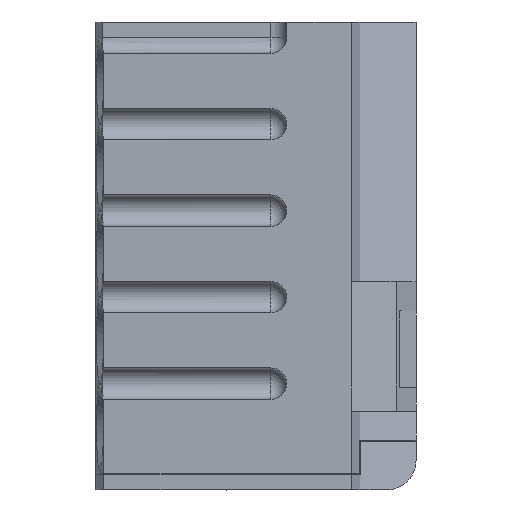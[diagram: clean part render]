
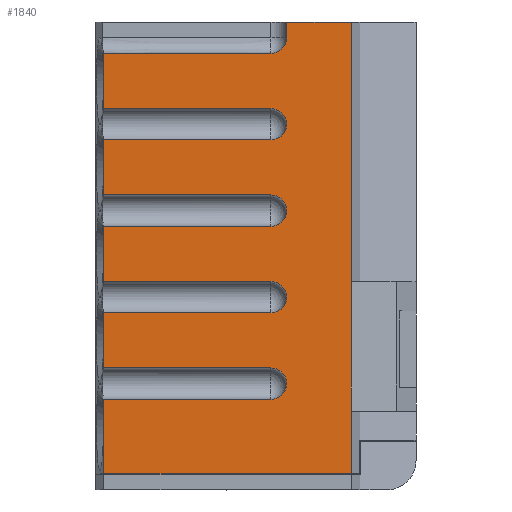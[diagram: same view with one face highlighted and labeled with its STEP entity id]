
A CAD part, top view. The second image highlights one B-rep face of the part: STEP entity #1840.
In plain terms, the highlighted planar face has unit normal (0, 0, 1).
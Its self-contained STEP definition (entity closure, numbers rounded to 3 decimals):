
#23=B_SPLINE_CURVE_WITH_KNOTS('',3,(#2732,#2733,#2734,#2735),
 .UNSPECIFIED.,.F.,.F.,(4,4),(0.,0.009),.UNSPECIFIED.);
#127=LINE('',#2630,#243);
#129=LINE('',#2634,#245);
#130=LINE('',#2636,#246);
#131=LINE('',#2638,#247);
#132=LINE('',#2640,#248);
#133=LINE('',#2679,#249);
#134=LINE('',#2683,#250);
#135=LINE('',#2685,#251);
#136=LINE('',#2689,#252);
#137=LINE('',#2691,#253);
#138=LINE('',#2695,#254);
#144=LINE('',#2706,#260);
#146=LINE('',#2737,#262);
#147=LINE('',#2741,#263);
#148=LINE('',#2743,#264);
#149=LINE('',#2744,#265);
#150=LINE('',#2745,#266);
#151=LINE('',#2746,#267);
#152=LINE('',#2747,#268);
#243=VECTOR('',#2254,1000.);
#245=VECTOR('',#2258,1000.);
#246=VECTOR('',#2261,1000.);
#247=VECTOR('',#2264,1000.);
#248=VECTOR('',#2267,1000.);
#249=VECTOR('',#2318,1000.);
#250=VECTOR('',#2321,1000.);
#251=VECTOR('',#2324,1000.);
#252=VECTOR('',#2327,1000.);
#253=VECTOR('',#2330,1000.);
#254=VECTOR('',#2333,1000.);
#260=VECTOR('',#2345,1000.);
#262=VECTOR('',#2351,1000.);
#263=VECTOR('',#2354,1000.);
#264=VECTOR('',#2357,1000.);
#265=VECTOR('',#2358,1000.);
#266=VECTOR('',#2359,1000.);
#267=VECTOR('',#2360,1000.);
#268=VECTOR('',#2361,1000.);
#327=PLANE('',#1978);
#628=ORIENTED_EDGE('',*,*,#842,.F.);
#629=ORIENTED_EDGE('',*,*,#814,.F.);
#630=ORIENTED_EDGE('',*,*,#844,.F.);
#631=ORIENTED_EDGE('',*,*,#845,.T.);
#632=ORIENTED_EDGE('',*,*,#823,.F.);
#633=ORIENTED_EDGE('',*,*,#812,.F.);
#634=ORIENTED_EDGE('',*,*,#825,.F.);
#635=ORIENTED_EDGE('',*,*,#846,.T.);
#636=ORIENTED_EDGE('',*,*,#826,.F.);
#637=ORIENTED_EDGE('',*,*,#810,.F.);
#638=ORIENTED_EDGE('',*,*,#828,.F.);
#639=ORIENTED_EDGE('',*,*,#847,.T.);
#640=ORIENTED_EDGE('',*,*,#829,.F.);
#641=ORIENTED_EDGE('',*,*,#808,.T.);
#642=ORIENTED_EDGE('',*,*,#831,.F.);
#643=ORIENTED_EDGE('',*,*,#848,.T.);
#644=ORIENTED_EDGE('',*,*,#806,.F.);
#645=ORIENTED_EDGE('',*,*,#805,.T.);
#646=ORIENTED_EDGE('',*,*,#804,.T.);
#647=ORIENTED_EDGE('',*,*,#803,.T.);
#648=ORIENTED_EDGE('',*,*,#837,.F.);
#649=ORIENTED_EDGE('',*,*,#801,.F.);
#650=ORIENTED_EDGE('',*,*,#798,.T.);
#651=ORIENTED_EDGE('',*,*,#841,.F.);
#652=ORIENTED_EDGE('',*,*,#849,.T.);
#798=EDGE_CURVE('',#927,#929,#976,.T.);
#801=EDGE_CURVE('',#927,#931,#127,.T.);
#803=EDGE_CURVE('',#906,#932,#129,.T.);
#804=EDGE_CURVE('',#907,#906,#130,.T.);
#805=EDGE_CURVE('',#912,#907,#131,.T.);
#806=EDGE_CURVE('',#912,#933,#132,.F.);
#808=EDGE_CURVE('',#934,#935,#978,.T.);
#810=EDGE_CURVE('',#936,#937,#980,.F.);
#812=EDGE_CURVE('',#938,#939,#982,.F.);
#814=EDGE_CURVE('',#940,#941,#984,.F.);
#823=EDGE_CURVE('',#939,#946,#133,.T.);
#825=EDGE_CURVE('',#947,#938,#134,.F.);
#826=EDGE_CURVE('',#937,#948,#135,.T.);
#828=EDGE_CURVE('',#949,#936,#136,.F.);
#829=EDGE_CURVE('',#934,#950,#137,.T.);
#831=EDGE_CURVE('',#951,#935,#138,.F.);
#837=EDGE_CURVE('',#931,#932,#144,.T.);
#841=EDGE_CURVE('',#955,#929,#23,.T.);
#842=EDGE_CURVE('',#941,#956,#146,.T.);
#844=EDGE_CURVE('',#957,#940,#147,.F.);
#845=EDGE_CURVE('',#957,#946,#148,.T.);
#846=EDGE_CURVE('',#947,#948,#149,.T.);
#847=EDGE_CURVE('',#949,#950,#150,.T.);
#848=EDGE_CURVE('',#951,#933,#151,.T.);
#849=EDGE_CURVE('',#955,#956,#152,.T.);
#906=VERTEX_POINT('',#2541);
#907=VERTEX_POINT('',#2545);
#912=VERTEX_POINT('',#2564);
#927=VERTEX_POINT('',#2620);
#929=VERTEX_POINT('',#2623);
#931=VERTEX_POINT('',#2628);
#932=VERTEX_POINT('',#2633);
#933=VERTEX_POINT('',#2641);
#934=VERTEX_POINT('',#2645);
#935=VERTEX_POINT('',#2646);
#936=VERTEX_POINT('',#2650);
#937=VERTEX_POINT('',#2651);
#938=VERTEX_POINT('',#2655);
#939=VERTEX_POINT('',#2656);
#940=VERTEX_POINT('',#2660);
#941=VERTEX_POINT('',#2661);
#946=VERTEX_POINT('',#2680);
#947=VERTEX_POINT('',#2682);
#948=VERTEX_POINT('',#2686);
#949=VERTEX_POINT('',#2688);
#950=VERTEX_POINT('',#2692);
#951=VERTEX_POINT('',#2694);
#955=VERTEX_POINT('',#2731);
#956=VERTEX_POINT('',#2738);
#957=VERTEX_POINT('',#2740);
#976=CIRCLE('',#1935,0.8);
#978=CIRCLE('',#1944,0.8);
#980=CIRCLE('',#1947,0.8);
#982=CIRCLE('',#1950,0.8);
#984=CIRCLE('',#1953,0.8);
#1080=EDGE_LOOP('',(#628,#629,#630,#631,#632,#633,#634,#635,#636,#637,#638,
#639,#640,#641,#642,#643,#644,#645,#646,#647,#648,#649,#650,#651,#652));
#1171=FACE_BOUND('',#1080,.T.);
#1840=ADVANCED_FACE('',(#1171),#327,.F.);
#1935=AXIS2_PLACEMENT_3D('',#2624,#2247,#2248);
#1944=AXIS2_PLACEMENT_3D('',#2644,#2272,#2273);
#1947=AXIS2_PLACEMENT_3D('',#2649,#2278,#2279);
#1950=AXIS2_PLACEMENT_3D('',#2654,#2284,#2285);
#1953=AXIS2_PLACEMENT_3D('',#2659,#2290,#2291);
#1978=AXIS2_PLACEMENT_3D('',#2742,#2355,#2356);
#2247=DIRECTION('',(0.,0.,-1.));
#2248=DIRECTION('',(-1.,0.,0.));
#2254=DIRECTION('',(0.,1.,0.));
#2258=DIRECTION('',(0.,1.,0.));
#2261=DIRECTION('',(0.,1.,0.));
#2264=DIRECTION('',(0.,1.,0.));
#2267=DIRECTION('',(1.,0.,0.));
#2272=DIRECTION('',(0.,0.,-1.));
#2273=DIRECTION('',(-1.,0.,0.));
#2278=DIRECTION('',(0.,0.,-1.));
#2279=DIRECTION('',(-1.,0.,0.));
#2284=DIRECTION('',(0.,0.,-1.));
#2285=DIRECTION('',(-1.,0.,0.));
#2290=DIRECTION('',(0.,0.,-1.));
#2291=DIRECTION('',(-1.,0.,0.));
#2318=DIRECTION('',(-1.,0.,0.));
#2321=DIRECTION('',(-1.,0.,0.));
#2324=DIRECTION('',(-1.,0.,0.));
#2327=DIRECTION('',(-1.,0.,0.));
#2330=DIRECTION('',(-1.,0.,0.));
#2333=DIRECTION('',(-1.,0.,0.));
#2345=DIRECTION('',(1.,0.,0.));
#2351=DIRECTION('',(-1.,0.,0.));
#2354=DIRECTION('',(-1.,0.,0.));
#2355=DIRECTION('',(0.,0.,-1.));
#2356=DIRECTION('',(-1.,0.,0.));
#2357=DIRECTION('',(0.,-1.,0.));
#2358=DIRECTION('',(0.,-1.,0.));
#2359=DIRECTION('',(0.,-1.,0.));
#2360=DIRECTION('',(0.,-1.,0.));
#2361=DIRECTION('',(0.,-1.,0.));
#2541=CARTESIAN_POINT('',(4.9,10.6,3.75));
#2545=CARTESIAN_POINT('',(4.9,4.,3.75));
#2564=CARTESIAN_POINT('',(4.9,0.825,3.75));
#2620=CARTESIAN_POINT('',(1.6,23.,3.75));
#2623=CARTESIAN_POINT('',(0.8,22.2,3.75));
#2624=CARTESIAN_POINT('',(0.8,23.,3.75));
#2628=CARTESIAN_POINT('',(1.6,23.8,3.75));
#2630=CARTESIAN_POINT('',(1.6,10.6,3.75));
#2633=CARTESIAN_POINT('',(4.9,23.8,3.75));
#2634=CARTESIAN_POINT('',(4.9,11.826,3.75));
#2636=CARTESIAN_POINT('',(4.9,10.6,3.75));
#2638=CARTESIAN_POINT('',(4.9,10.6,3.75));
#2640=CARTESIAN_POINT('',(-7.7,0.825,3.75));
#2641=CARTESIAN_POINT('',(-7.7,0.825,3.75));
#2644=CARTESIAN_POINT('',(0.8,5.4,3.75));
#2645=CARTESIAN_POINT('',(0.8,6.2,3.75));
#2646=CARTESIAN_POINT('',(0.8,4.6,3.75));
#2649=CARTESIAN_POINT('',(0.8,9.8,3.75));
#2650=CARTESIAN_POINT('',(0.8,9.,3.75));
#2651=CARTESIAN_POINT('',(0.8,10.6,3.75));
#2654=CARTESIAN_POINT('',(0.8,14.2,3.75));
#2655=CARTESIAN_POINT('',(0.8,13.4,3.75));
#2656=CARTESIAN_POINT('',(0.8,15.,3.75));
#2659=CARTESIAN_POINT('',(0.8,18.6,3.75));
#2660=CARTESIAN_POINT('',(0.8,17.8,3.75));
#2661=CARTESIAN_POINT('',(0.8,19.4,3.75));
#2679=CARTESIAN_POINT('',(0.8,15.,3.75));
#2680=CARTESIAN_POINT('',(-7.7,15.,3.75));
#2682=CARTESIAN_POINT('',(-7.7,13.4,3.75));
#2683=CARTESIAN_POINT('',(0.8,13.4,3.75));
#2685=CARTESIAN_POINT('',(0.8,10.6,3.75));
#2686=CARTESIAN_POINT('',(-7.7,10.6,3.75));
#2688=CARTESIAN_POINT('',(-7.7,9.,3.75));
#2689=CARTESIAN_POINT('',(0.8,9.,3.75));
#2691=CARTESIAN_POINT('',(0.8,6.2,3.75));
#2692=CARTESIAN_POINT('',(-7.7,6.2,3.75));
#2694=CARTESIAN_POINT('',(-7.7,4.6,3.75));
#2695=CARTESIAN_POINT('',(0.8,4.6,3.75));
#2706=CARTESIAN_POINT('',(-8.1,23.8,3.75));
#2731=CARTESIAN_POINT('',(-7.7,22.2,3.75));
#2732=CARTESIAN_POINT('',(-7.7,22.2,3.75));
#2733=CARTESIAN_POINT('',(-4.867,22.2,3.75));
#2734=CARTESIAN_POINT('',(-2.033,22.2,3.75));
#2735=CARTESIAN_POINT('',(0.8,22.2,3.75));
#2737=CARTESIAN_POINT('',(0.8,19.4,3.75));
#2738=CARTESIAN_POINT('',(-7.7,19.4,3.75));
#2740=CARTESIAN_POINT('',(-7.7,17.8,3.75));
#2741=CARTESIAN_POINT('',(0.8,17.8,3.75));
#2742=CARTESIAN_POINT('',(-8.1,10.6,3.75));
#2743=CARTESIAN_POINT('',(-7.7,13.398,3.75));
#2744=CARTESIAN_POINT('',(-7.7,13.398,3.75));
#2745=CARTESIAN_POINT('',(-7.7,13.398,3.75));
#2746=CARTESIAN_POINT('',(-7.7,13.398,3.75));
#2747=CARTESIAN_POINT('',(-7.7,13.398,3.75));
